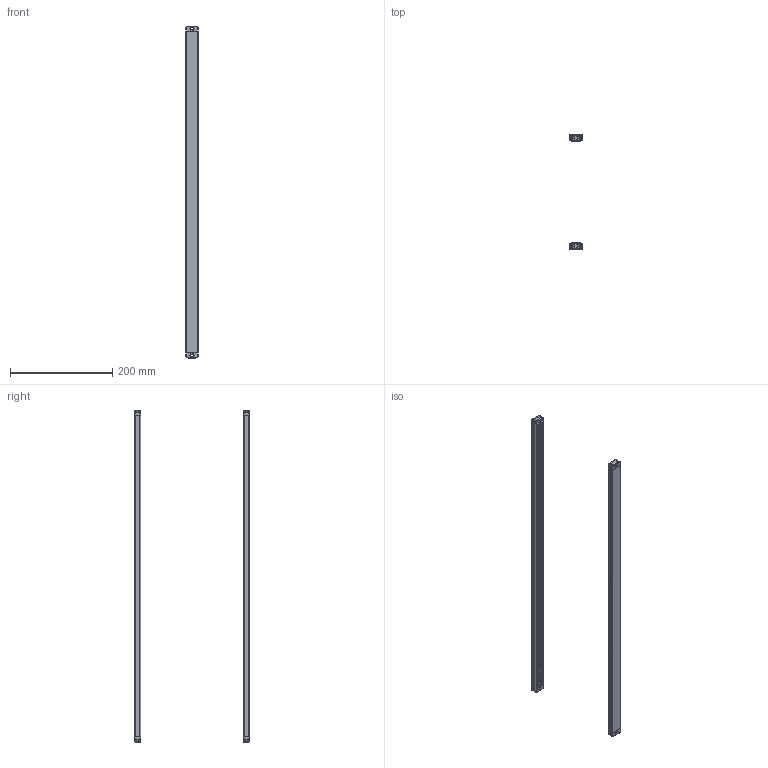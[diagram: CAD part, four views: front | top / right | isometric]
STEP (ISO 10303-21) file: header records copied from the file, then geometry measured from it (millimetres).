
FILE_DESCRIPTION (( 'STEP AP203' ), '1' );
FILE_NAME ('ZDB3220-630.STEP', '2022-08-31T03:16:51', ( 'Windows 蚚誧' ), ( 'Organization' ), 'SwSTEP 2.0', 'SolidWorks 2020', '' );
FILE_SCHEMA (( 'CONFIG_CONTROL_DESIGN' ));
Length unit declared in the file: millimetre
Products named in the file (4): 傷裔衵; ZDB3220-630; 傷裔酘諉彶; 媼啃3臏倰第
Assembly tree (6 placements, depth 2):
  ZDB3220-630
    傷裔衵  x2
    傷裔酘諉彶  x2
    媼啃3臏倰第  x2
Bounding box: 25 x 224 x 650 mm (x, y, z)
Volume: 125902.6 mm3; surface area: 202054.6 mm2
Topology: 6 solids, 6 shells, 650 faces, 1758 edges, 1124 vertices
Faces by surface type: plane 406, cylinder 188, torus 32, bspline 16, sphere 8
Entity records: 11427 total; most frequent: CARTESIAN_POINT 2721, ORIENTED_EDGE 1750, DIRECTION 1687, EDGE_CURVE 875, VECTOR 631, LINE 631, VERTEX_POINT 562, AXIS2_PLACEMENT_3D 528
